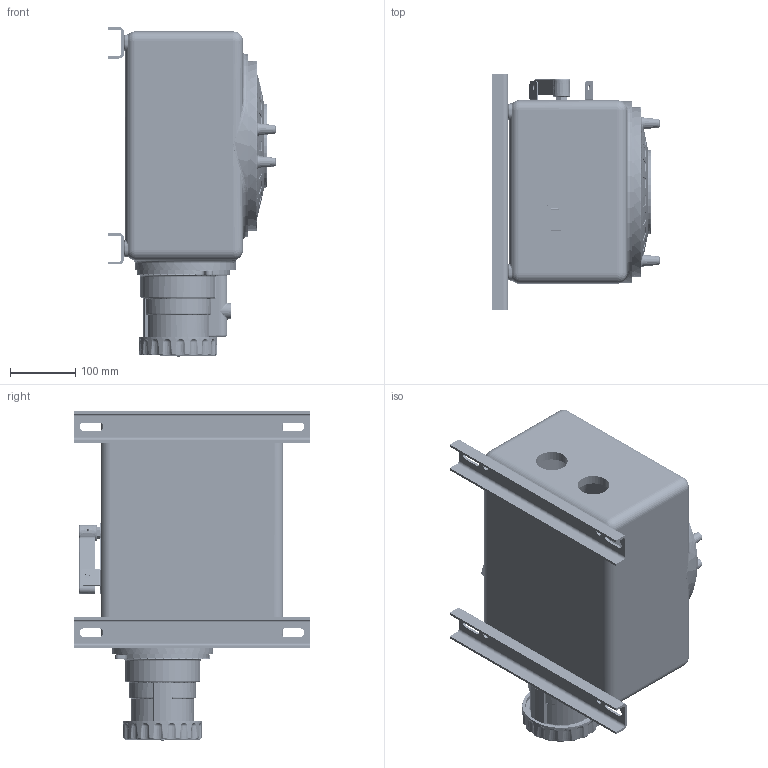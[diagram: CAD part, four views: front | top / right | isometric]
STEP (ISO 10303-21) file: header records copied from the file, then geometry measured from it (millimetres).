
FILE_DESCRIPTION((''),'2;1');
FILE_NAME('\\192.168.5.25\cortem_klient\INVENTOR БАЗА МОДЕЛЕЙ\Актуальная база моделей для отдела продаж\Вилки, розетки\РГБ-125-4_М2.stp','2022-01-28T16:06:44',('K.S.Bezzubikov'),(''),'Autodesk Inventor 2012','Autodesk Inventor 2012','');
FILE_SCHEMA(('AUTOMOTIVE_DESIGN { 1 0 10303 214 1 1 1 1 }'));
Length unit declared in the file: millimetre
Products named in the file (1): РГБ-125-4_М2 (3P+N+PE RAL7035 Розетка) Разъем_1хМ63
Bounding box: 256 x 360 x 504.57 mm (x, y, z)
Volume: 10063194 mm3; surface area: 1817092.2 mm2
Topology: 47 solids, 47 shells, 5563 faces, 13217 edges, 7822 vertices
Faces by surface type: plane 1694, bspline 1423, cylinder 1309, torus 748, cone 294, sphere 95
Full cylindrical faces by diameter (mm): 0.5 x8, 2 x6, 2.5 x6, 3 x1, 3.3 x16, 3.65 x1, 4 x17, 4.2 x7, 4.3 x1, 4.917 x11, 5 x4, 6 x7, 6.8 x1, 7 x14, 7.5 x6, 8 x7, 8.2 x1, 8.5 x11, 9 x6, 9.5 x5, 10 x13, 10.2 x5, 10.5 x6, 11 x2, 11.5 x1, 12 x8, 12.08 x1, 12.2 x5, 12.5 x1, 13 x4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
Entity records: 274444 total; most frequent: CARTESIAN_POINT 157474, ORIENTED_EDGE 24528, DIRECTION 22468, EDGE_CURVE 12264, AXIS2_PLACEMENT_3D 8962, VERTEX_POINT 7622, EDGE_LOOP 6564, FACE_OUTER_BOUND 5562
